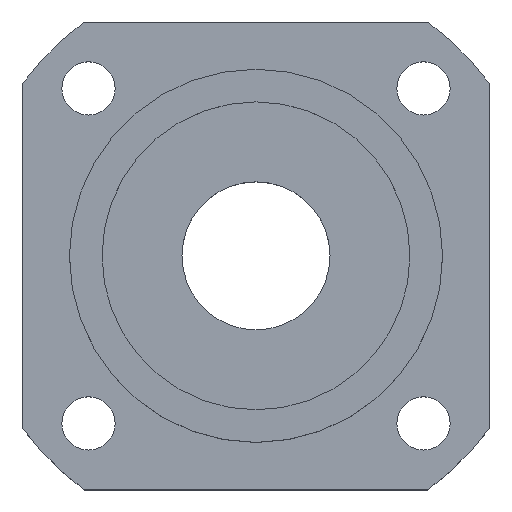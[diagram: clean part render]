
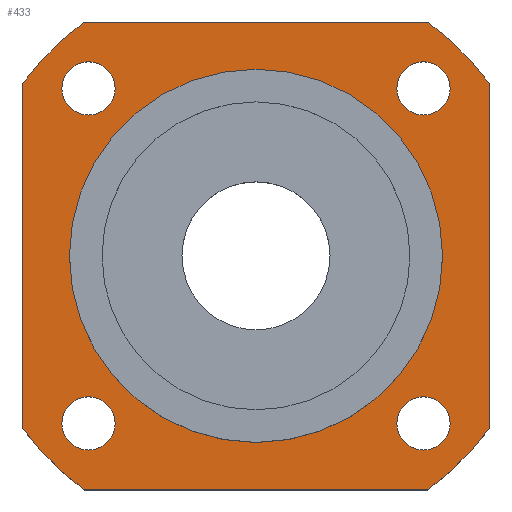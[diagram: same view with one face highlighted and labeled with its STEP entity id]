
A CAD part, top view. The second image highlights one B-rep face of the part: STEP entity #433.
In plain terms, the highlighted planar face has unit normal (0, 0, 1).
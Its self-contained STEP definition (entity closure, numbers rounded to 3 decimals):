
#16=LINE($,#720,#32);
#20=LINE($,#732,#36);
#24=LINE($,#744,#40);
#28=LINE($,#754,#44);
#32=VECTOR($,#598,57.991);
#36=VECTOR($,#610,57.991);
#40=VECTOR($,#622,57.991);
#44=VECTOR($,#634,57.991);
#56=PLANE($,#497);
#80=FACE_BOUND($,#162,.T.);
#81=FACE_BOUND($,#163,.T.);
#82=FACE_BOUND($,#164,.T.);
#83=FACE_BOUND($,#165,.T.);
#84=FACE_BOUND($,#166,.T.);
#85=FACE_BOUND($,#167,.T.);
#162=EDGE_LOOP($,(#364));
#163=EDGE_LOOP($,(#365));
#164=EDGE_LOOP($,(#366));
#165=EDGE_LOOP($,(#367));
#166=EDGE_LOOP($,(#368));
#167=EDGE_LOOP($,(#369,#370,#371,#372,#373,#374,#375,#376));
#183=CIRCLE($,#455,4.5);
#187=CIRCLE($,#462,4.5);
#191=CIRCLE($,#469,4.5);
#195=CIRCLE($,#476,4.5);
#197=CIRCLE($,#479,31.5);
#199=CIRCLE($,#483,49.);
#201=CIRCLE($,#487,49.);
#203=CIRCLE($,#491,49.);
#205=CIRCLE($,#495,49.);
#215=VERTEX_POINT($,#666);
#219=VERTEX_POINT($,#677);
#223=VERTEX_POINT($,#688);
#227=VERTEX_POINT($,#699);
#229=VERTEX_POINT($,#704);
#232=VERTEX_POINT($,#711);
#233=VERTEX_POINT($,#713);
#235=VERTEX_POINT($,#719);
#237=VERTEX_POINT($,#725);
#239=VERTEX_POINT($,#731);
#241=VERTEX_POINT($,#737);
#243=VERTEX_POINT($,#743);
#245=VERTEX_POINT($,#749);
#255=EDGE_CURVE($,#215,#215,#183,.T.);
#259=EDGE_CURVE($,#219,#219,#187,.T.);
#263=EDGE_CURVE($,#223,#223,#191,.T.);
#267=EDGE_CURVE($,#227,#227,#195,.T.);
#269=EDGE_CURVE($,#229,#229,#197,.T.);
#272=EDGE_CURVE($,#233,#232,#199,.T.);
#275=EDGE_CURVE($,#235,#233,#16,.T.);
#278=EDGE_CURVE($,#237,#235,#201,.T.);
#281=EDGE_CURVE($,#239,#237,#20,.T.);
#284=EDGE_CURVE($,#241,#239,#203,.T.);
#287=EDGE_CURVE($,#243,#241,#24,.T.);
#290=EDGE_CURVE($,#245,#243,#205,.T.);
#293=EDGE_CURVE($,#232,#245,#28,.T.);
#364=ORIENTED_EDGE($,*,*,#255,.T.);
#365=ORIENTED_EDGE($,*,*,#259,.T.);
#366=ORIENTED_EDGE($,*,*,#263,.T.);
#367=ORIENTED_EDGE($,*,*,#267,.T.);
#368=ORIENTED_EDGE($,*,*,#269,.T.);
#369=ORIENTED_EDGE($,*,*,#293,.T.);
#370=ORIENTED_EDGE($,*,*,#290,.T.);
#371=ORIENTED_EDGE($,*,*,#287,.T.);
#372=ORIENTED_EDGE($,*,*,#284,.T.);
#373=ORIENTED_EDGE($,*,*,#281,.T.);
#374=ORIENTED_EDGE($,*,*,#278,.T.);
#375=ORIENTED_EDGE($,*,*,#275,.T.);
#376=ORIENTED_EDGE($,*,*,#272,.T.);
#433=ADVANCED_FACE($,(#80,#81,#82,#83,#84,#85),#56,.T.);
#455=AXIS2_PLACEMENT_3D($,#667,#535,#536);
#462=AXIS2_PLACEMENT_3D($,#678,#549,#550);
#469=AXIS2_PLACEMENT_3D($,#689,#563,#564);
#476=AXIS2_PLACEMENT_3D($,#700,#577,#578);
#479=AXIS2_PLACEMENT_3D($,#705,#583,#584);
#483=AXIS2_PLACEMENT_3D($,#714,#592,#593);
#487=AXIS2_PLACEMENT_3D($,#726,#604,#605);
#491=AXIS2_PLACEMENT_3D($,#738,#616,#617);
#495=AXIS2_PLACEMENT_3D($,#750,#628,#629);
#497=AXIS2_PLACEMENT_3D($,#755,#635,#636);
#535=DIRECTION('center_axis',(0.,0.,-1.));
#536=DIRECTION('ref_axis',(-1.,0.,0.));
#549=DIRECTION('center_axis',(0.,0.,-1.));
#550=DIRECTION('ref_axis',(-1.,0.,0.));
#563=DIRECTION('center_axis',(0.,0.,-1.));
#564=DIRECTION('ref_axis',(-1.,0.,0.));
#577=DIRECTION('center_axis',(0.,0.,-1.));
#578=DIRECTION('ref_axis',(-1.,0.,0.));
#583=DIRECTION('center_axis',(0.,0.,-1.));
#584=DIRECTION('ref_axis',(-1.,0.,0.));
#592=DIRECTION('center_axis',(0.,0.,1.));
#593=DIRECTION('ref_axis',(-0.592,0.806,0.));
#598=DIRECTION($,(-1.,0.,0.));
#604=DIRECTION('center_axis',(0.,0.,1.));
#605=DIRECTION('ref_axis',(0.806,0.592,0.));
#610=DIRECTION($,(0.,1.,0.));
#616=DIRECTION('center_axis',(0.,0.,1.));
#617=DIRECTION('ref_axis',(0.592,-0.806,0.));
#622=DIRECTION($,(1.,0.,0.));
#628=DIRECTION('center_axis',(0.,0.,1.));
#629=DIRECTION('ref_axis',(-0.806,-0.592,0.));
#634=DIRECTION($,(0.,-1.,0.));
#635=DIRECTION('center_axis',(0.,0.,1.));
#636=DIRECTION('ref_axis',(1.,0.,0.));
#666=CARTESIAN_POINT('',(-23.784,-28.284,14.));
#667=CARTESIAN_POINT('Origin',(-28.284,-28.284,14.));
#677=CARTESIAN_POINT('',(32.784,28.284,14.));
#678=CARTESIAN_POINT('Origin',(28.284,28.284,14.));
#688=CARTESIAN_POINT('',(32.784,-28.284,14.));
#689=CARTESIAN_POINT('Origin',(28.284,-28.284,14.));
#699=CARTESIAN_POINT('',(-23.784,28.284,14.));
#700=CARTESIAN_POINT('Origin',(-28.284,28.284,14.));
#704=CARTESIAN_POINT('',(31.5,0.,14.));
#705=CARTESIAN_POINT('Origin',(0.,0.,14.));
#711=CARTESIAN_POINT('',(-39.5,28.996,14.));
#713=CARTESIAN_POINT('',(-28.996,39.5,14.));
#714=CARTESIAN_POINT('Origin',(0.,0.,14.));
#719=CARTESIAN_POINT('',(28.996,39.5,14.));
#720=CARTESIAN_POINT($,(28.996,39.5,14.));
#725=CARTESIAN_POINT('',(39.5,28.996,14.));
#726=CARTESIAN_POINT('Origin',(0.,0.,14.));
#731=CARTESIAN_POINT('',(39.5,-28.996,14.));
#732=CARTESIAN_POINT($,(39.5,-28.996,14.));
#737=CARTESIAN_POINT('',(28.996,-39.5,14.));
#738=CARTESIAN_POINT('Origin',(0.,0.,14.));
#743=CARTESIAN_POINT('',(-28.996,-39.5,14.));
#744=CARTESIAN_POINT($,(-28.996,-39.5,14.));
#749=CARTESIAN_POINT('',(-39.5,-28.996,14.));
#750=CARTESIAN_POINT('Origin',(0.,0.,14.));
#754=CARTESIAN_POINT($,(-39.5,28.996,14.));
#755=CARTESIAN_POINT('Origin',(0.,0.,
14.));
